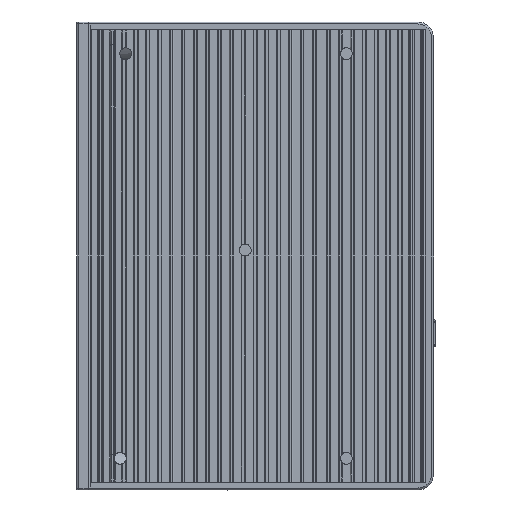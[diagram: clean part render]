
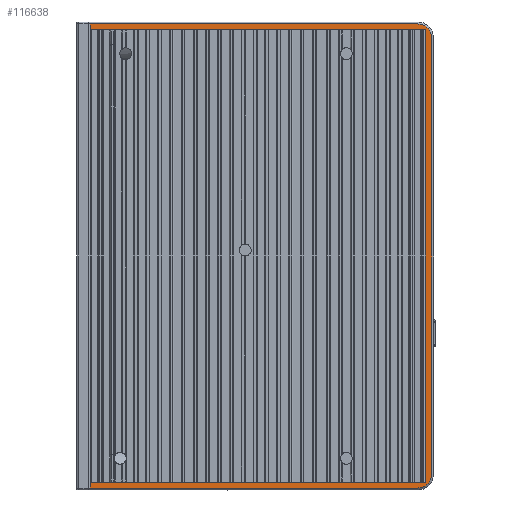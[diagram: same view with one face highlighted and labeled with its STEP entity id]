
A CAD part, left-side view. The second image highlights one B-rep face of the part: STEP entity #116638.
In plain terms, the highlighted planar face has unit normal (-1, 0, 0) as drawn and (0, -1, 0) by its records, which use the part's own axes.
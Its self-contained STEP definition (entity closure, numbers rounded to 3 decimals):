
#105588=DIRECTION('',(1.,0.,0.));
#105589=VECTOR('',#105588,1.5);
#105590=CARTESIAN_POINT('',(58.5,-9.,-110.5));
#105591=LINE('',#105590,#105589);
#105632=DIRECTION('',(1.,0.,0.));
#105633=VECTOR('',#105632,1.5);
#105634=CARTESIAN_POINT('',(-57.,-9.,-110.5));
#105635=LINE('',#105634,#105633);
#108022=DIRECTION('',(1.,0.,0.));
#108023=VECTOR('',#108022,110.);
#108024=CARTESIAN_POINT('',(-53.5,-9.,
-24.5));
#108025=LINE('',#108024,#108023);
#108026=CARTESIAN_POINT('',(56.5,-9.,-28.));
#108027=DIRECTION('',(0.,1.,0.));
#108028=DIRECTION('',(0.,0.,1.));
#108029=AXIS2_PLACEMENT_3D('',#108026,#108027,#108028);
#108031=DIRECTION('',(0.,0.,-1.));
#108032=VECTOR('',#108031,82.5);
#108033=CARTESIAN_POINT('',(60.,-9.,
-28.));
#108034=LINE('',#108033,#108032);
#108035=DIRECTION('',(0.,0.,1.));
#108036=VECTOR('',#108035,84.5);
#108037=CARTESIAN_POINT('',(58.5,-9.,-110.5));
#108038=LINE('',#108037,#108036);
#108039=DIRECTION('',(-1.,0.,0.));
#108040=VECTOR('',#108039,114.);
#108041=CARTESIAN_POINT('',(58.5,-9.,-26.));
#108042=LINE('',#108041,#108040);
#108043=DIRECTION('',(0.,0.,-1.));
#108044=VECTOR('',#108043,84.5);
#108045=CARTESIAN_POINT('',(-55.5,-9.,-26.));
#108046=LINE('',#108045,#108044);
#108047=DIRECTION('',(0.,0.,1.));
#108048=VECTOR('',#108047,82.5);
#108049=CARTESIAN_POINT('',(-57.,-9.,-110.5));
#108050=LINE('',#108049,#108048);
#108051=CARTESIAN_POINT('',(-53.5,-9.,-28.));
#108052=DIRECTION('',(0.,1.,0.));
#108053=DIRECTION('',(-1.,0.,0.));
#108054=AXIS2_PLACEMENT_3D('',#108051,#108052,#108053);
#111643=CARTESIAN_POINT('',(58.5,-9.,-26.));
#111645=VERTEX_POINT('',#111643);
#111693=CARTESIAN_POINT('',(-55.5,-9.,-26.));
#111694=VERTEX_POINT('',#111693);
#111893=CARTESIAN_POINT('',(58.5,-9.,-110.5));
#111894=VERTEX_POINT('',#111893);
#112361=CARTESIAN_POINT('',(60.,-9.,
-28.));
#112362=CARTESIAN_POINT('',(60.,-9.,-110.5));
#112363=VERTEX_POINT('',#112361);
#112364=VERTEX_POINT('',#112362);
#112365=CARTESIAN_POINT('',(-53.5,-9.,
-24.5));
#112366=CARTESIAN_POINT('',(56.5,-9.,
-24.5));
#112367=VERTEX_POINT('',#112365);
#112368=VERTEX_POINT('',#112366);
#112369=CARTESIAN_POINT('',(-55.5,-9.,-110.5));
#112370=VERTEX_POINT('',#112369);
#112371=CARTESIAN_POINT('',(-57.,-9.,-110.5));
#112372=VERTEX_POINT('',#112371);
#112373=CARTESIAN_POINT('',(-57.,-9.,
-28.));
#112374=VERTEX_POINT('',#112373);
#116616=CARTESIAN_POINT('',(-57.5,-9.,-26.15));
#116617=DIRECTION('',(0.,-1.,0.));
#116618=DIRECTION('',(1.,0.,0.));
#116619=AXIS2_PLACEMENT_3D('',#116616,#116617,#116618);
#116620=PLANE('',#116619);
#116622=ORIENTED_EDGE('',*,*,#116621,.T.);
#116624=ORIENTED_EDGE('',*,*,#116623,.T.);
#116626=ORIENTED_EDGE('',*,*,#116625,.T.);
#116627=ORIENTED_EDGE('',*,*,#114185,.F.);
#116628=ORIENTED_EDGE('',*,*,#115318,.T.);
#116629=ORIENTED_EDGE('',*,*,#115266,.T.);
#116630=ORIENTED_EDGE('',*,*,#114614,.T.);
#116631=ORIENTED_EDGE('',*,*,#114205,.F.);
#116633=ORIENTED_EDGE('',*,*,#116632,.T.);
#116635=ORIENTED_EDGE('',*,*,#116634,.T.);
#116636=EDGE_LOOP('',(#116622,#116624,#116626,#116627,#116628,#116629,#116630,
#116631,#116633,#116635));
#116637=FACE_OUTER_BOUND('',#116636,.F.);
#108030=CIRCLE('',#108029,3.5);
#108055=CIRCLE('',#108054,3.5);
#114185=EDGE_CURVE('',#111894,#112364,#105591,.T.);
#114205=EDGE_CURVE('',#112372,#112370,#105635,.T.);
#114614=EDGE_CURVE('',#111694,#112370,#108046,.T.);
#115266=EDGE_CURVE('',#111645,#111694,#108042,.T.);
#115318=EDGE_CURVE('',#111894,#111645,#108038,.T.);
#116621=EDGE_CURVE('',#112367,#112368,#108025,.T.);
#116623=EDGE_CURVE('',#112368,#112363,#108030,.T.);
#116625=EDGE_CURVE('',#112363,#112364,#108034,.T.);
#116632=EDGE_CURVE('',#112372,#112374,#108050,.T.);
#116634=EDGE_CURVE('',#112374,#112367,#108055,.T.);
#116638=ADVANCED_FACE('',(#116637),#116620,.T.);
